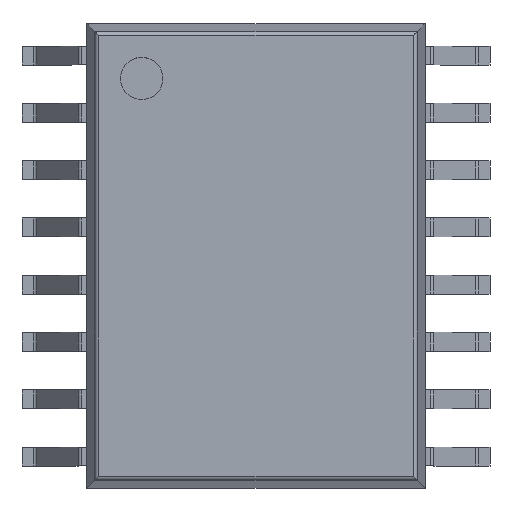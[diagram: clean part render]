
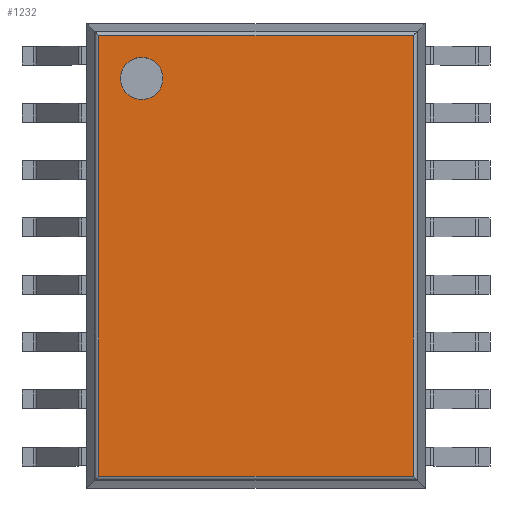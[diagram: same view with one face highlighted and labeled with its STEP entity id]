
A CAD part, top view. The second image highlights one B-rep face of the part: STEP entity #1232.
In plain terms, the highlighted planar face has unit normal (0, 0, 1).
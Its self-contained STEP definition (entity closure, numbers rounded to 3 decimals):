
#829 = CYLINDRICAL_SURFACE('',#830,0.09);
#830 = AXIS2_PLACEMENT_3D('',#831,#832,#833);
#831 = CARTESIAN_POINT('',(-3.483,-4.96,2.55));
#832 = DIRECTION('',(0.,1.,0.));
#833 = DIRECTION('',(-0.988,0.,0.156));
#971 = CYLINDRICAL_SURFACE('',#972,0.09);
#972 = AXIS2_PLACEMENT_3D('',#973,#974,#975);
#973 = CARTESIAN_POINT('',(-3.56,-4.883,2.55));
#974 = DIRECTION('',(1.,0.,0.));
#975 = DIRECTION('',(0.,-0.988,0.156));
#987 = VERTEX_POINT('',#988);
#988 = CARTESIAN_POINT('',(-3.483,-4.883,2.64));
#1022 = EDGE_CURVE('',#987,#1023,#1025,.T.);
#1023 = VERTEX_POINT('',#1024);
#1024 = CARTESIAN_POINT('',(-3.483,4.883,2.64));
#1025 = SURFACE_CURVE('',#1026,(#1030,#1037),.PCURVE_S1.);
#1026 = LINE('',#1027,#1028);
#1027 = CARTESIAN_POINT('',(-3.483,-4.96,2.64));
#1028 = VECTOR('',#1029,1.);
#1029 = DIRECTION('',(0.,1.,0.));
#1030 = PCURVE('',#829,#1031);
#1031 = DEFINITIONAL_REPRESENTATION('',(#1032),#1036);
#1032 = LINE('',#1033,#1034);
#1033 = CARTESIAN_POINT('',(1.415,0.));
#1034 = VECTOR('',#1035,1.);
#1035 = DIRECTION('',(0.,1.));
#1036 = ( GEOMETRIC_REPRESENTATION_CONTEXT(2) 
PARAMETRIC_REPRESENTATION_CONTEXT() REPRESENTATION_CONTEXT('2D SPACE',''
  ) );
#1037 = PCURVE('',#1038,#1043);
#1038 = PLANE('',#1039);
#1039 = AXIS2_PLACEMENT_3D('',#1040,#1041,#1042);
#1040 = CARTESIAN_POINT('',(-3.748,-5.148,2.64));
#1041 = DIRECTION('',(0.,0.,1.));
#1042 = DIRECTION('',(1.,0.,0.));
#1043 = DEFINITIONAL_REPRESENTATION('',(#1044),#1048);
#1044 = LINE('',#1045,#1046);
#1045 = CARTESIAN_POINT('',(0.264,0.187));
#1046 = VECTOR('',#1047,1.);
#1047 = DIRECTION('',(0.,1.));
#1048 = ( GEOMETRIC_REPRESENTATION_CONTEXT(2) 
PARAMETRIC_REPRESENTATION_CONTEXT() REPRESENTATION_CONTEXT('2D SPACE',''
  ) );
#1071 = CYLINDRICAL_SURFACE('',#1072,0.09);
#1072 = AXIS2_PLACEMENT_3D('',#1073,#1074,#1075);
#1073 = CARTESIAN_POINT('',(-3.56,4.883,2.55));
#1074 = DIRECTION('',(1.,0.,0.));
#1075 = DIRECTION('',(0.,0.,1.));
#1159 = CYLINDRICAL_SURFACE('',#1160,0.09);
#1160 = AXIS2_PLACEMENT_3D('',#1161,#1162,#1163);
#1161 = CARTESIAN_POINT('',(3.483,-4.96,2.55));
#1162 = DIRECTION('',(0.,1.,0.));
#1163 = DIRECTION('',(0.,0.,1.));
#1175 = EDGE_CURVE('',#987,#1176,#1178,.T.);
#1176 = VERTEX_POINT('',#1177);
#1177 = CARTESIAN_POINT('',(3.483,-4.883,2.64));
#1178 = SURFACE_CURVE('',#1179,(#1183,#1190),.PCURVE_S1.);
#1179 = LINE('',#1180,#1181);
#1180 = CARTESIAN_POINT('',(-3.56,-4.883,2.64));
#1181 = VECTOR('',#1182,1.);
#1182 = DIRECTION('',(1.,0.,0.));
#1183 = PCURVE('',#971,#1184);
#1184 = DEFINITIONAL_REPRESENTATION('',(#1185),#1189);
#1185 = LINE('',#1186,#1187);
#1186 = CARTESIAN_POINT('',(-1.415,0.));
#1187 = VECTOR('',#1188,1.);
#1188 = DIRECTION('',(-0.,1.));
#1189 = ( GEOMETRIC_REPRESENTATION_CONTEXT(2) 
PARAMETRIC_REPRESENTATION_CONTEXT() REPRESENTATION_CONTEXT('2D SPACE',''
  ) );
#1190 = PCURVE('',#1038,#1191);
#1191 = DEFINITIONAL_REPRESENTATION('',(#1192),#1196);
#1192 = LINE('',#1193,#1194);
#1193 = CARTESIAN_POINT('',(0.187,0.264));
#1194 = VECTOR('',#1195,1.);
#1195 = DIRECTION('',(1.,0.));
#1196 = ( GEOMETRIC_REPRESENTATION_CONTEXT(2) 
PARAMETRIC_REPRESENTATION_CONTEXT() REPRESENTATION_CONTEXT('2D SPACE',''
  ) );
#1232 = ADVANCED_FACE('',(#1233,#1281),#1038,.T.);
#1233 = FACE_BOUND('',#1234,.T.);
#1234 = EDGE_LOOP('',(#1235,#1236,#1237,#1260));
#1235 = ORIENTED_EDGE('',*,*,#1022,.F.);
#1236 = ORIENTED_EDGE('',*,*,#1175,.T.);
#1237 = ORIENTED_EDGE('',*,*,#1238,.T.);
#1238 = EDGE_CURVE('',#1176,#1239,#1241,.T.);
#1239 = VERTEX_POINT('',#1240);
#1240 = CARTESIAN_POINT('',(3.483,4.883,2.64));
#1241 = SURFACE_CURVE('',#1242,(#1246,#1253),.PCURVE_S1.);
#1242 = LINE('',#1243,#1244);
#1243 = CARTESIAN_POINT('',(3.483,-4.96,2.64));
#1244 = VECTOR('',#1245,1.);
#1245 = DIRECTION('',(0.,1.,0.));
#1246 = PCURVE('',#1038,#1247);
#1247 = DEFINITIONAL_REPRESENTATION('',(#1248),#1252);
#1248 = LINE('',#1249,#1250);
#1249 = CARTESIAN_POINT('',(7.231,0.187));
#1250 = VECTOR('',#1251,1.);
#1251 = DIRECTION('',(0.,1.));
#1252 = ( GEOMETRIC_REPRESENTATION_CONTEXT(2) 
PARAMETRIC_REPRESENTATION_CONTEXT() REPRESENTATION_CONTEXT('2D SPACE',''
  ) );
#1253 = PCURVE('',#1159,#1254);
#1254 = DEFINITIONAL_REPRESENTATION('',(#1255),#1259);
#1255 = LINE('',#1256,#1257);
#1256 = CARTESIAN_POINT('',(0.,0.));
#1257 = VECTOR('',#1258,1.);
#1258 = DIRECTION('',(0.,1.));
#1259 = ( GEOMETRIC_REPRESENTATION_CONTEXT(2) 
PARAMETRIC_REPRESENTATION_CONTEXT() REPRESENTATION_CONTEXT('2D SPACE',''
  ) );
#1260 = ORIENTED_EDGE('',*,*,#1261,.F.);
#1261 = EDGE_CURVE('',#1023,#1239,#1262,.T.);
#1262 = SURFACE_CURVE('',#1263,(#1267,#1274),.PCURVE_S1.);
#1263 = LINE('',#1264,#1265);
#1264 = CARTESIAN_POINT('',(-3.56,4.883,2.64));
#1265 = VECTOR('',#1266,1.);
#1266 = DIRECTION('',(1.,0.,0.));
#1267 = PCURVE('',#1038,#1268);
#1268 = DEFINITIONAL_REPRESENTATION('',(#1269),#1273);
#1269 = LINE('',#1270,#1271);
#1270 = CARTESIAN_POINT('',(0.187,10.031));
#1271 = VECTOR('',#1272,1.);
#1272 = DIRECTION('',(1.,0.));
#1273 = ( GEOMETRIC_REPRESENTATION_CONTEXT(2) 
PARAMETRIC_REPRESENTATION_CONTEXT() REPRESENTATION_CONTEXT('2D SPACE',''
  ) );
#1274 = PCURVE('',#1071,#1275);
#1275 = DEFINITIONAL_REPRESENTATION('',(#1276),#1280);
#1276 = LINE('',#1277,#1278);
#1277 = CARTESIAN_POINT('',(-0.,0.));
#1278 = VECTOR('',#1279,1.);
#1279 = DIRECTION('',(-0.,1.));
#1280 = ( GEOMETRIC_REPRESENTATION_CONTEXT(2) 
PARAMETRIC_REPRESENTATION_CONTEXT() REPRESENTATION_CONTEXT('2D SPACE',''
  ) );
#1281 = FACE_BOUND('',#1282,.T.);
#1282 = EDGE_LOOP('',(#1283));
#1283 = ORIENTED_EDGE('',*,*,#1284,.F.);
#1284 = EDGE_CURVE('',#1285,#1285,#1287,.T.);
#1285 = VERTEX_POINT('',#1286);
#1286 = CARTESIAN_POINT('',(-2.065,3.933,2.64));
#1287 = SURFACE_CURVE('',#1288,(#1293,#1300),.PCURVE_S1.);
#1288 = CIRCLE('',#1289,0.468);
#1289 = AXIS2_PLACEMENT_3D('',#1290,#1291,#1292);
#1290 = CARTESIAN_POINT('',(-2.533,3.933,2.64));
#1291 = DIRECTION('',(0.,0.,1.));
#1292 = DIRECTION('',(1.,0.,0.));
#1293 = PCURVE('',#1038,#1294);
#1294 = DEFINITIONAL_REPRESENTATION('',(#1295),#1299);
#1295 = CIRCLE('',#1296,0.468);
#1296 = AXIS2_PLACEMENT_2D('',#1297,#1298);
#1297 = CARTESIAN_POINT('',(1.214,9.081));
#1298 = DIRECTION('',(1.,0.));
#1299 = ( GEOMETRIC_REPRESENTATION_CONTEXT(2) 
PARAMETRIC_REPRESENTATION_CONTEXT() REPRESENTATION_CONTEXT('2D SPACE',''
  ) );
#1300 = PCURVE('',#1301,#1306);
#1301 = CYLINDRICAL_SURFACE('',#1302,0.468);
#1302 = AXIS2_PLACEMENT_3D('',#1303,#1304,#1305);
#1303 = CARTESIAN_POINT('',(-2.533,3.933,2.376));
#1304 = DIRECTION('',(0.,0.,1.));
#1305 = DIRECTION('',(1.,0.,0.));
#1306 = DEFINITIONAL_REPRESENTATION('',(#1307),#1310);
#1307 = B_SPLINE_CURVE_WITH_KNOTS('',1,(#1308,#1309),.UNSPECIFIED.,.F.,
  .F.,(2,2),(0.,6.283),.PIECEWISE_BEZIER_KNOTS.);
#1308 = CARTESIAN_POINT('',(0.,0.264));
#1309 = CARTESIAN_POINT('',(6.283,0.264));
#1310 = ( GEOMETRIC_REPRESENTATION_CONTEXT(2) 
PARAMETRIC_REPRESENTATION_CONTEXT() REPRESENTATION_CONTEXT('2D SPACE',''
  ) );
